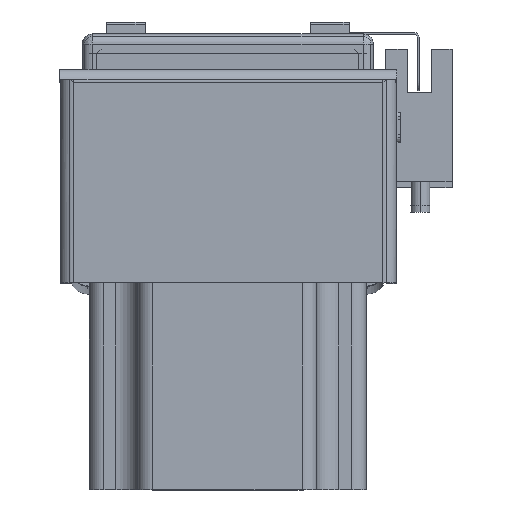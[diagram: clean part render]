
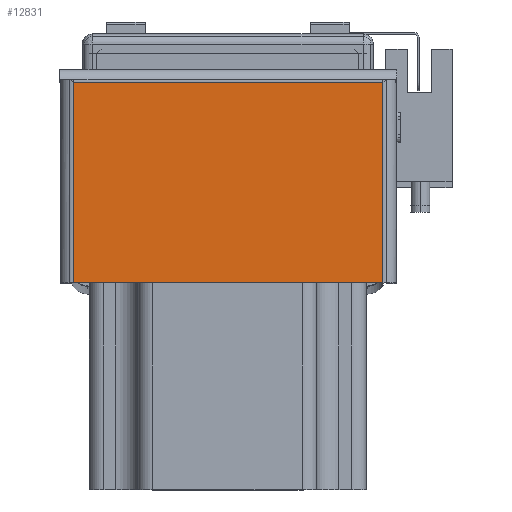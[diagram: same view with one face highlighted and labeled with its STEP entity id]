
A CAD part, top view. The second image highlights one B-rep face of the part: STEP entity #12831.
In plain terms, the highlighted planar face has unit normal (0, 0, 1) as drawn and (1, 0, 0) by its records, which use the part's own axes.
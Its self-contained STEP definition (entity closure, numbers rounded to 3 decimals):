
#3811 = AXIS2_PLACEMENT_3D ( 'NONE', #18273, #18248, #18280 ) ;
#4763 = FACE_OUTER_BOUND ( 'NONE', #26660, .T. ) ;
#7470 = VERTEX_POINT ( 'NONE', #35624 ) ;
#7486 = VERTEX_POINT ( 'NONE', #35733 ) ;
#7532 = VERTEX_POINT ( 'NONE', #35679 ) ;
#7538 = VERTEX_POINT ( 'NONE', #35761 ) ;
#12831 = ADVANCED_FACE ( 'NONE', ( #4763 ), #18265, .F. ) ;
#18248 = DIRECTION ( 'NONE',  ( -1., 0., 0. ) ) ;
#18265 = PLANE ( 'NONE',  #3811 ) ;
#18273 = CARTESIAN_POINT ( 'NONE',  ( 2., 42., -32.6 ) ) ;
#18280 = DIRECTION ( 'NONE',  ( 0., 0., 1. ) ) ;
#21316 = DIRECTION ( 'NONE',  ( 0., 0., 1. ) ) ;
#21336 = CARTESIAN_POINT ( 'NONE',  ( 2., 41.263, -31.863 ) ) ;
#21345 = DIRECTION ( 'NONE',  ( 0., -1., 0. ) ) ;
#21350 = DIRECTION ( 'NONE',  ( 0., -1., 0. ) ) ;
#21357 = CARTESIAN_POINT ( 'NONE',  ( 2., 42., 31.863 ) ) ;
#21382 = CARTESIAN_POINT ( 'NONE',  ( 2., 42., -31.863 ) ) ;
#21401 = DIRECTION ( 'NONE',  ( 0., 0., -1. ) ) ;
#21414 = CARTESIAN_POINT ( 'NONE',  ( 2., 0., -32.6 ) ) ;
#23387 = EDGE_CURVE ( 'NONE', #7532, #7470, #32009, .T. ) ;
#23394 = EDGE_CURVE ( 'NONE', #7470, #7538, #32096, .T. ) ;
#23409 = EDGE_CURVE ( 'NONE', #7532, #7486, #32080, .T. ) ;
#23410 = EDGE_CURVE ( 'NONE', #7538, #7486, #32097, .T. ) ;
#26660 = EDGE_LOOP ( 'NONE', ( #34808, #34710, #34815, #34795 ) ) ;
#32009 = LINE ( 'NONE', #21336, #32110 ) ;
#32056 = VECTOR ( 'NONE', #21401, 1000. ) ;
#32065 = VECTOR ( 'NONE', #21345, 1000. ) ;
#32070 = VECTOR ( 'NONE', #21350, 1000. ) ;
#32080 = LINE ( 'NONE', #21382, #32065 ) ;
#32096 = LINE ( 'NONE', #21357, #32070 ) ;
#32097 = LINE ( 'NONE', #21414, #32056 ) ;
#32110 = VECTOR ( 'NONE', #21316, 1000. ) ;
#34710 = ORIENTED_EDGE ( 'NONE', *, *, #23394, .T. ) ;
#34795 = ORIENTED_EDGE ( 'NONE', *, *, #23409, .F. ) ;
#34808 = ORIENTED_EDGE ( 'NONE', *, *, #23387, .T. ) ;
#34815 = ORIENTED_EDGE ( 'NONE', *, *, #23410, .T. ) ;
#35624 = CARTESIAN_POINT ( 'NONE',  ( 2., 41.263, 31.863 ) ) ;
#35679 = CARTESIAN_POINT ( 'NONE',  ( 2., 41.263, -31.863 ) ) ;
#35733 = CARTESIAN_POINT ( 'NONE',  ( 2., 0., -31.863 ) ) ;
#35761 = CARTESIAN_POINT ( 'NONE',  ( 2., 0., 31.863 ) ) ;
